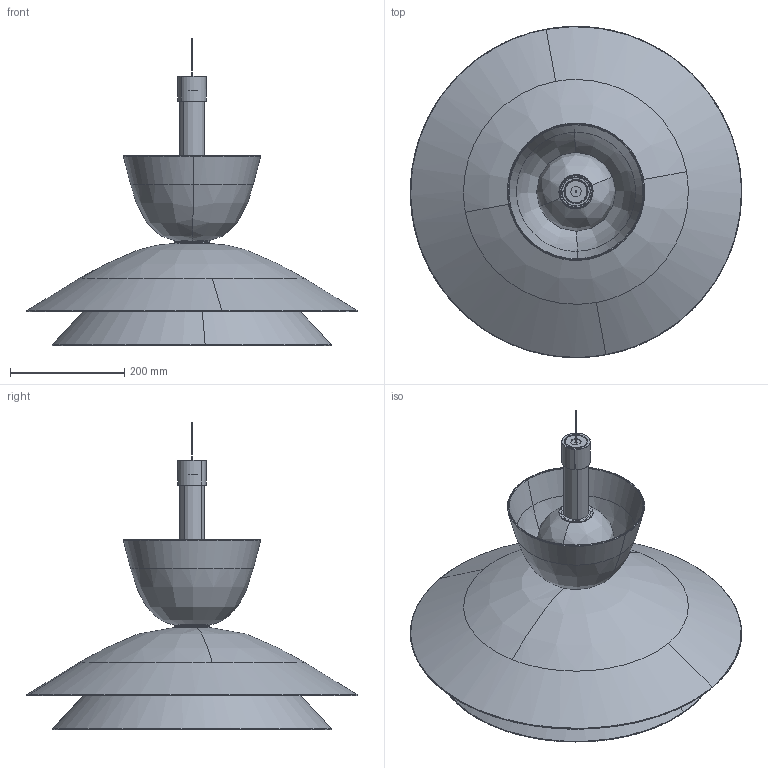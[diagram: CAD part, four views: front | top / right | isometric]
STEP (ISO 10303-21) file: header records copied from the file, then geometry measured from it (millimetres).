
FILE_DESCRIPTION(/* description */ (''),/* implementation_level */ '2;1');
FILE_NAME(/* name */ 'SEM.000221',/* time_stamp */ '2023-05-11T16:26:08+02:00',/* author */ (''),/* organization */ (''),/* preprocessor_version */ 'ST-DEVELOPER v16.5',/* originating_system */ 'Rhino 7.29',/* authorisation */ '');
FILE_SCHEMA (('CONFIG_CONTROL_DESIGN'));
Length unit declared in the file: millimetre
Products named in the file (12): Document; MET.006349; PLA.005260; MET.006350; MET.005642; VET.005135; VET.005127; PLA.005261; PLA.005262; VET.005125; VET.005126; VET.005123
Assembly tree (17 placements, depth 2):
  Document
    MET.006349
    PLA.005260
    MET.006350
    MET.005642
    VET.005135
    VET.005127
    PLA.005261  x5
    PLA.005262  x3
    VET.005125
    VET.005126
    VET.005123
Bounding box: 580.04 x 579.98 x 538.59 mm (x, y, z)
Volume: 2487290.7 mm3; surface area: 1704749.9 mm2
Topology: 19 solids, 20 shells, 827 faces, 1978 edges, 1146 vertices
Faces by surface type: bspline 632, cylinder 129, plane 66
Entity records: 18794 total; most frequent: CARTESIAN_POINT 12867, ORIENTED_EDGE 1608, EDGE_CURVE 806, VERTEX_POINT 518, EDGE_LOOP 364, ADVANCED_FACE 329, FACE_OUTER_BOUND 329, B_SPLINE_CURVE_WITH_KNOTS 242
